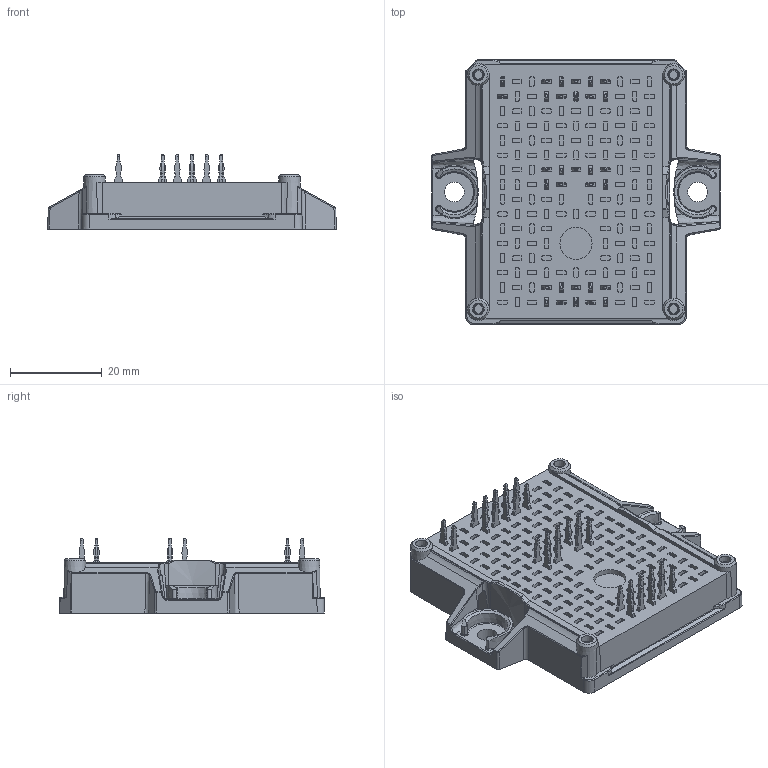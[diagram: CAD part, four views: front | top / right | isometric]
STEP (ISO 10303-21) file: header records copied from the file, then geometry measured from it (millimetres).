
FILE_DESCRIPTION(/* description */ ('Unknown'),/* implementation_level */ '2;1');
FILE_NAME(/* name */ 'FlowE2-4T12T-MA50(270)-01-OL',/* time_stamp */ '2026-09-16T14:27:31+02:00',/* author */ ('Unknown'),/* organization */ ('Unknown'),/* preprocessor_version */ 'ST-DEVELOPER v20',/* originating_system */ 'Solid Edge',/* authorisation */ 'Unknown');
FILE_SCHEMA (('AUTOMOTIVE_DESIGN {1 0 10303 214 3 1 1}'));
Products named in the file (1): FlowE2-4T12T-MA50-OL
Bounding box: 62.8 x 57.68 x 16.43 mm (x, y, z)
Volume: 26300.2 mm3; surface area: 12571.6 mm2
Topology: 1 solids, 1 shells, 4164 faces, 10332 edges, 6369 vertices
Faces by surface type: plane 2132, cylinder 1153, cone 714, bspline 119, torus 28, sphere 18
Full cylindrical faces by diameter (mm): 4.3 x2, 7 x1
Entity records: 152750 total; most frequent: CARTESIAN_POINT 23731, DIRECTION 21292, ORIENTED_EDGE 20560, EDGE_CURVE 10280, AXIS2_PLACEMENT_3D 7252, LINE 6788, VECTOR 6788, VERTEX_POINT 6356
